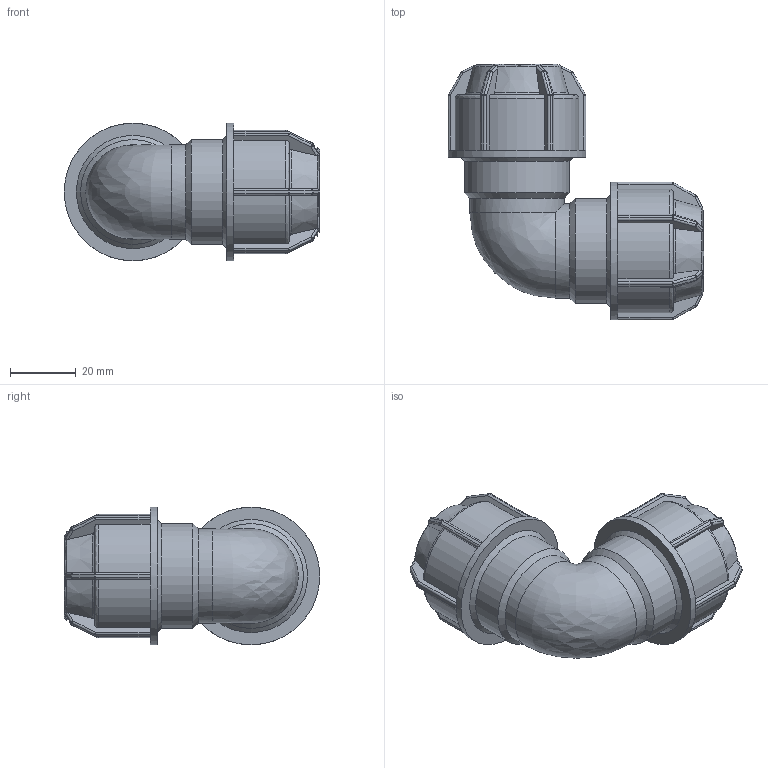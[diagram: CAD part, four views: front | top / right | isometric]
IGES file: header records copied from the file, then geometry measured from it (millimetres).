
Global section: file name: 140500020.ipt; native system: Autodesk Inventor 2015; preprocessor: unknown; author: KIM; date: 20180409.131039; units: millimetre
Bounding box: 78 x 78 x 42 mm (x, y, z)
Volume: 62795.5 mm3; surface area: 22332 mm2
Topology: 1 solids, 1 shells, 406 faces, 974 edges, 566 vertices
Faces by surface type: plane 192, cylinder 114, sphere 48, revolution 35, cone 16, bspline 1
Full cylindrical faces by diameter (mm): 28.8 x2, 32 x2, 42 x2
